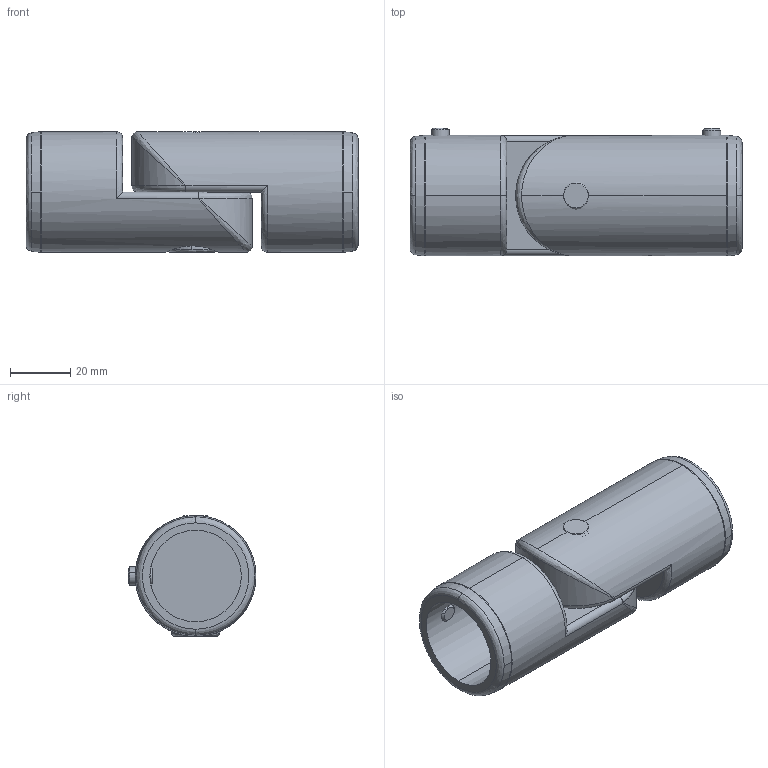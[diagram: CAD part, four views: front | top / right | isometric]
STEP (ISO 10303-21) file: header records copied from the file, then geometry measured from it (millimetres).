
FILE_DESCRIPTION (( 'STEP AP214' ), '1' );
FILE_NAME ('31000410029.STEP', '2024-09-02T09:38:51', ( '' ), ( '' ), 'SwSTEP 2.0', 'SolidWorks 2016', '' );
FILE_SCHEMA (( 'AUTOMOTIVE_DESIGN' ));
Length unit declared in the file: millimetre
Products named in the file (5): 31000410029; DIN 912  (Regelgewinde) - ersetzt durch DIN EN ISO 4762 M10 x 30; 1924a-1_1-Schalig; 1924a-2_1-Schalig; DIN 913  (Regelgewinde) M6 x 8
Assembly tree (5 placements, depth 2):
  31000410029
    1924a-1_1-Schalig
    1924a-2_1-Schalig
    DIN 912  (Regelgewinde) - ersetzt durch DIN EN ISO 4762 M10 x 30
    DIN 913  (Regelgewinde) M6 x 8  x2
Bounding box: 110 x 42.4 x 40 mm (x, y, z)
Volume: 93395.4 mm3; surface area: 28638.7 mm2
Topology: 5 solids, 5 shells, 112 faces, 277 edges, 174 vertices
Faces by surface type: cylinder 34, plane 34, bspline 24, cone 20
Entity records: 6179 total; most frequent: CARTESIAN_POINT 2791, ORIENTED_EDGE 466, DIRECTION 428, EDGE_CURVE 233, AXIS2_PLACEMENT_3D 176, VERTEX_POINT 149, UNCERTAINTY_MEASURE_WITH_UNIT 109, EDGE_LOOP 108
